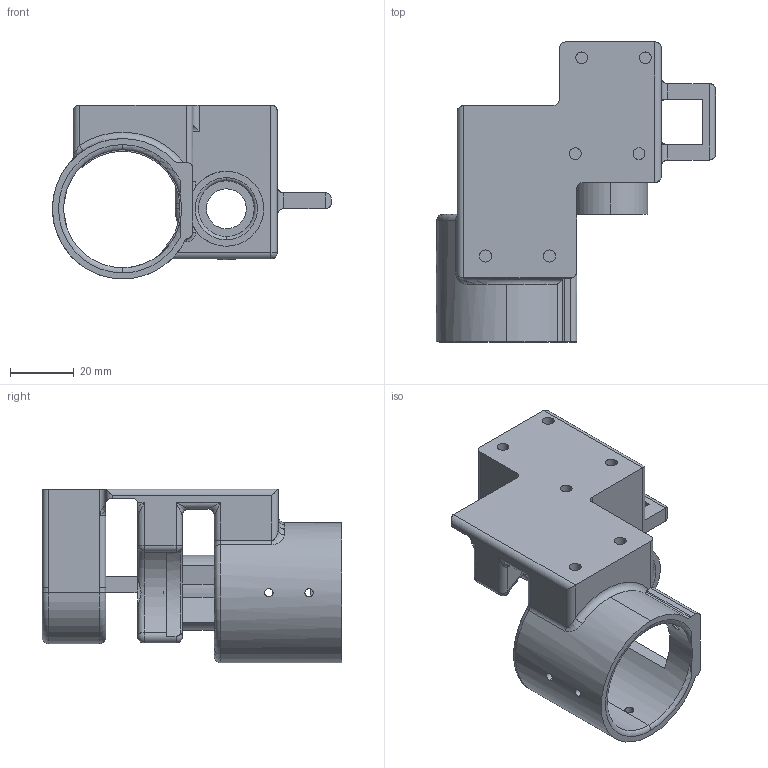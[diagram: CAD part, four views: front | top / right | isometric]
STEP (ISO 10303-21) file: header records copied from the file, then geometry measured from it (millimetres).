
FILE_DESCRIPTION (( 'STEP AP203' ), '1' );
FILE_NAME ('Motor Mount.STEP', '2026-01-17T21:10:54', ( '' ), ( '' ), 'SwSTEP 2.0', 'SolidWorks 2026', '' );
FILE_SCHEMA (( 'CONFIG_CONTROL_DESIGN' ));
Length unit declared in the file: millimetre
Products named in the file (1): Motor Mount
Bounding box: 87.5 x 94 x 54.5 mm (x, y, z)
Volume: 78188.2 mm3; surface area: 33370 mm2
Topology: 2 solids, 2 shells, 195 faces, 507 edges, 302 vertices
Faces by surface type: cylinder 102, plane 51, torus 22, bspline 13, sphere 7
Entity records: 6989 total; most frequent: CARTESIAN_POINT 2305, ORIENTED_EDGE 988, DIRECTION 954, EDGE_CURVE 494, AXIS2_PLACEMENT_3D 371, VERTEX_POINT 302, EDGE_LOOP 220, VECTOR 212
